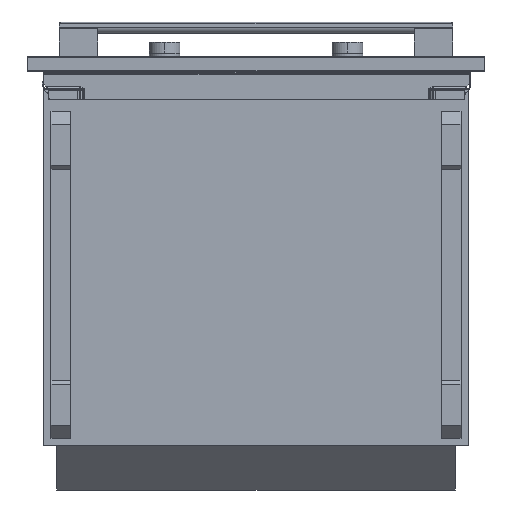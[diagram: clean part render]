
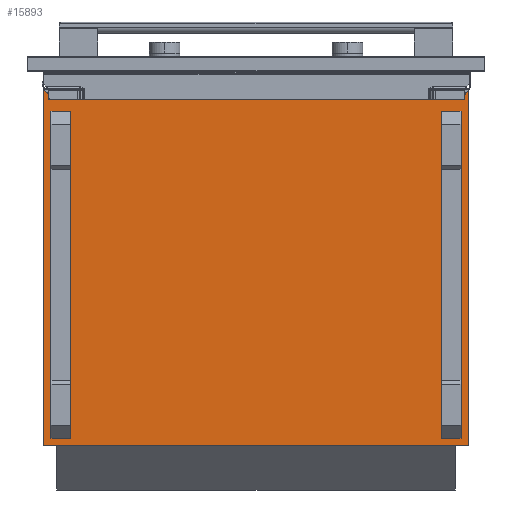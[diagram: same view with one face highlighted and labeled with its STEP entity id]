
A CAD part, front view. The second image highlights one B-rep face of the part: STEP entity #15893.
In plain terms, the highlighted planar face has unit normal (0, -1, 0).
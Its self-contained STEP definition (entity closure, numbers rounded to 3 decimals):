
#237 = LINE ( 'NONE', #8540, #7834 ) ;
#433 = DIRECTION ( 'NONE',  ( 1., 0., 0. ) ) ;
#866 = CARTESIAN_POINT ( 'NONE',  ( -267.5, 87.543, 39.793 ) ) ;
#887 = VECTOR ( 'NONE', #19165, 1000. ) ;
#1055 = LINE ( 'NONE', #6409, #4580 ) ;
#1482 = DIRECTION ( 'NONE',  ( -1., 0., 0. ) ) ;
#1506 = CARTESIAN_POINT ( 'NONE',  ( 277.55, 87.543, 30.293 ) ) ;
#1869 = DIRECTION ( 'NONE',  ( -1., 0., 0. ) ) ;
#2131 = VERTEX_POINT ( 'NONE', #866 ) ;
#2456 = CARTESIAN_POINT ( 'NONE',  ( -242.5, 87.543, 466.293 ) ) ;
#2574 = VERTEX_POINT ( 'NONE', #18850 ) ;
#2709 = ORIENTED_EDGE ( 'NONE', *, *, #13350, .F. ) ;
#2869 = EDGE_LOOP ( 'NONE', ( #2709, #11446, #9611, #4262 ) ) ;
#2979 = VERTEX_POINT ( 'NONE', #12670 ) ;
#3090 = EDGE_CURVE ( 'NONE', #5675, #5558, #7483, .T. ) ;
#3149 = VECTOR ( 'NONE', #1869, 1000. ) ;
#3232 = VECTOR ( 'NONE', #5538, 1000. ) ;
#3409 = VECTOR ( 'NONE', #18073, 1000. ) ;
#3481 = DIRECTION ( 'NONE',  ( 0., 1., 0. ) ) ;
#3724 = CARTESIAN_POINT ( 'NONE',  ( 277.55, 87.543, 493.993 ) ) ;
#3884 = EDGE_CURVE ( 'NONE', #14377, #10685, #11775, .T. ) ;
#4122 = ORIENTED_EDGE ( 'NONE', *, *, #16077, .F. ) ;
#4160 = ORIENTED_EDGE ( 'NONE', *, *, #9701, .F. ) ;
#4262 = ORIENTED_EDGE ( 'NONE', *, *, #12654, .F. ) ;
#4332 = EDGE_CURVE ( 'NONE', #2979, #5675, #4881, .T. ) ;
#4563 = VERTEX_POINT ( 'NONE', #5982 ) ;
#4580 = VECTOR ( 'NONE', #17176, 1000. ) ;
#4881 = LINE ( 'NONE', #16092, #887 ) ;
#5278 = LINE ( 'NONE', #18943, #13909 ) ;
#5399 = VERTEX_POINT ( 'NONE', #19071 ) ;
#5538 = DIRECTION ( 'NONE',  ( 0., 0., 1. ) ) ;
#5558 = VERTEX_POINT ( 'NONE', #7050 ) ;
#5675 = VERTEX_POINT ( 'NONE', #16619 ) ;
#5723 = LINE ( 'NONE', #8659, #13401 ) ;
#5982 = CARTESIAN_POINT ( 'NONE',  ( -242.5, 87.543, 39.793 ) ) ;
#6409 = CARTESIAN_POINT ( 'NONE',  ( -267.5, 87.543, 493.993 ) ) ;
#6791 = CARTESIAN_POINT ( 'NONE',  ( -277.55, 87.543, 30.293 ) ) ;
#7050 = CARTESIAN_POINT ( 'NONE',  ( 242.5, 87.543, 39.793 ) ) ;
#7093 = FACE_BOUND ( 'NONE', #19747, .T. ) ;
#7122 = EDGE_LOOP ( 'NONE', ( #4122, #8608, #11112, #8871 ) ) ;
#7483 = LINE ( 'NONE', #17831, #11563 ) ;
#7834 = VECTOR ( 'NONE', #11597, 1000. ) ;
#7898 = VERTEX_POINT ( 'NONE', #15540 ) ;
#8540 = CARTESIAN_POINT ( 'NONE',  ( -277.55, 87.543, 493.993 ) ) ;
#8608 = ORIENTED_EDGE ( 'NONE', *, *, #3884, .F. ) ;
#8659 = CARTESIAN_POINT ( 'NONE',  ( 267.5, 87.543, 493.993 ) ) ;
#8678 = VECTOR ( 'NONE', #1482, 1000. ) ;
#8871 = ORIENTED_EDGE ( 'NONE', *, *, #14688, .T. ) ;
#9535 = CARTESIAN_POINT ( 'NONE',  ( -261.55, 87.543, 39.793 ) ) ;
#9584 = CARTESIAN_POINT ( 'NONE',  ( -261.55, 87.543, 466.293 ) ) ;
#9611 = ORIENTED_EDGE ( 'NONE', *, *, #18759, .F. ) ;
#9701 = EDGE_CURVE ( 'NONE', #5558, #5399, #19250, .T. ) ;
#10000 = VERTEX_POINT ( 'NONE', #2456 ) ;
#10071 = EDGE_CURVE ( 'NONE', #14377, #11434, #19476, .T. ) ;
#10581 = CARTESIAN_POINT ( 'NONE',  ( 277.55, 87.543, 30.293 ) ) ;
#10685 = VERTEX_POINT ( 'NONE', #6791 ) ;
#11112 = ORIENTED_EDGE ( 'NONE', *, *, #10071, .T. ) ;
#11249 = DIRECTION ( 'NONE',  ( 0., 0., -1. ) ) ;
#11434 = VERTEX_POINT ( 'NONE', #18882 ) ;
#11446 = ORIENTED_EDGE ( 'NONE', *, *, #11477, .T. ) ;
#11477 = EDGE_CURVE ( 'NONE', #10000, #4563, #5278, .T. ) ;
#11563 = VECTOR ( 'NONE', #14074, 1000. ) ;
#11597 = DIRECTION ( 'NONE',  ( 0., 0., 1. ) ) ;
#11775 = LINE ( 'NONE', #1506, #8678 ) ;
#12382 = PLANE ( 'NONE',  #16242 ) ;
#12592 = CARTESIAN_POINT ( 'NONE',  ( -261.55, 87.543, 493.993 ) ) ;
#12654 = EDGE_CURVE ( 'NONE', #7898, #2131, #1055, .T. ) ;
#12670 = CARTESIAN_POINT ( 'NONE',  ( 267.5, 87.543, 466.293 ) ) ;
#13260 = ORIENTED_EDGE ( 'NONE', *, *, #18659, .T. ) ;
#13350 = EDGE_CURVE ( 'NONE', #10000, #7898, #15816, .T. ) ;
#13401 = VECTOR ( 'NONE', #19338, 1000. ) ;
#13506 = ORIENTED_EDGE ( 'NONE', *, *, #4332, .F. ) ;
#13909 = VECTOR ( 'NONE', #11249, 1000. ) ;
#14074 = DIRECTION ( 'NONE',  ( 0., 0., -1. ) ) ;
#14126 = DIRECTION ( 'NONE',  ( 1., 0., 0. ) ) ;
#14375 = DIRECTION ( 'NONE',  ( -1., 0., 0. ) ) ;
#14377 = VERTEX_POINT ( 'NONE', #10581 ) ;
#14688 = EDGE_CURVE ( 'NONE', #11434, #2574, #18407, .T. ) ;
#15540 = CARTESIAN_POINT ( 'NONE',  ( -267.5, 87.543, 466.293 ) ) ;
#15572 = LINE ( 'NONE', #16536, #3409 ) ;
#15816 = LINE ( 'NONE', #9584, #3149 ) ;
#15893 = ADVANCED_FACE ( 'NONE', ( #18861, #7093, #19328 ), #12382, .F. ) ;
#16077 = EDGE_CURVE ( 'NONE', #10685, #2574, #237, .T. ) ;
#16092 = CARTESIAN_POINT ( 'NONE',  ( -261.55, 87.543, 466.293 ) ) ;
#16242 = AXIS2_PLACEMENT_3D ( 'NONE', #12592, #3481, #14126 ) ;
#16284 = CARTESIAN_POINT ( 'NONE',  ( 277.55, 87.543, 493.993 ) ) ;
#16536 = CARTESIAN_POINT ( 'NONE',  ( -261.55, 87.543, 39.793 ) ) ;
#16619 = CARTESIAN_POINT ( 'NONE',  ( 242.5, 87.543, 466.293 ) ) ;
#17176 = DIRECTION ( 'NONE',  ( 0., 0., -1. ) ) ;
#17831 = CARTESIAN_POINT ( 'NONE',  ( 242.5, 87.543, 493.993 ) ) ;
#18073 = DIRECTION ( 'NONE',  ( 1., 0., 0. ) ) ;
#18407 = LINE ( 'NONE', #3724, #19355 ) ;
#18435 = ORIENTED_EDGE ( 'NONE', *, *, #3090, .F. ) ;
#18659 = EDGE_CURVE ( 'NONE', #2979, #5399, #5723, .T. ) ;
#18759 = EDGE_CURVE ( 'NONE', #2131, #4563, #15572, .T. ) ;
#18850 = CARTESIAN_POINT ( 'NONE',  ( -277.55, 87.543, 493.993 ) ) ;
#18861 = FACE_BOUND ( 'NONE', #2869, .T. ) ;
#18882 = CARTESIAN_POINT ( 'NONE',  ( 277.55, 87.543, 493.993 ) ) ;
#18943 = CARTESIAN_POINT ( 'NONE',  ( -242.5, 87.543, 493.993 ) ) ;
#19071 = CARTESIAN_POINT ( 'NONE',  ( 267.5, 87.543, 39.793 ) ) ;
#19165 = DIRECTION ( 'NONE',  ( -1., 0., 0. ) ) ;
#19250 = LINE ( 'NONE', #9535, #19728 ) ;
#19328 = FACE_OUTER_BOUND ( 'NONE', #7122, .T. ) ;
#19338 = DIRECTION ( 'NONE',  ( 0., 0., -1. ) ) ;
#19355 = VECTOR ( 'NONE', #14375, 1000. ) ;
#19476 = LINE ( 'NONE', #16284, #3232 ) ;
#19728 = VECTOR ( 'NONE', #433, 1000. ) ;
#19747 = EDGE_LOOP ( 'NONE', ( #13506, #13260, #4160, #18435 ) ) ;
